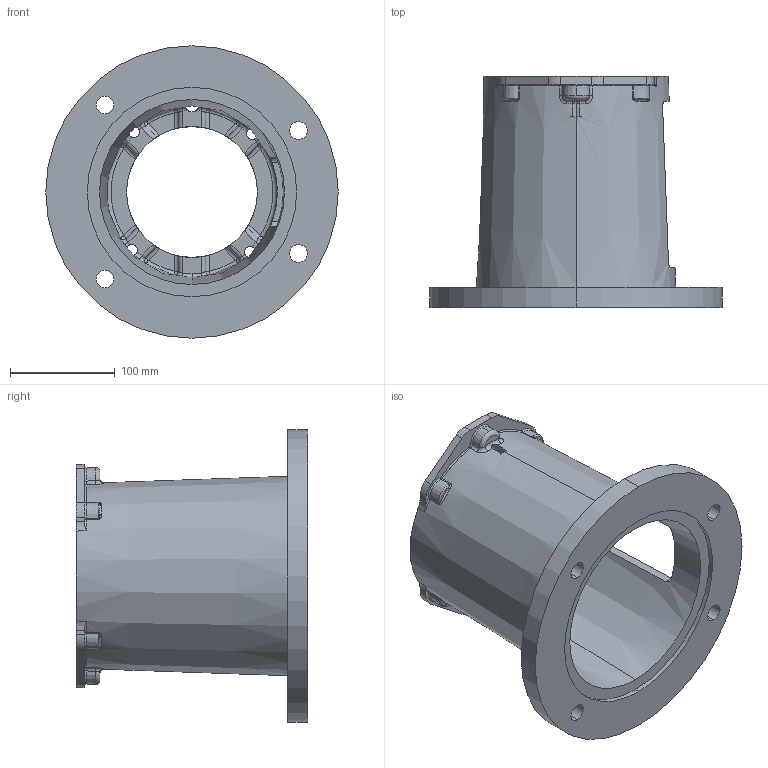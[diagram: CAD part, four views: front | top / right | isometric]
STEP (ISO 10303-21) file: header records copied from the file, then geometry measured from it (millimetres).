
FILE_DESCRIPTION (( 'STEP AP203' ), '1' );
FILE_NAME ('E78786125M.STEP', '2014-11-04T16:00:18', ( '' ), ( '' ), 'SwSTEP 2.0', 'SolidWorks 2014', '' );
FILE_SCHEMA (( 'CONFIG_CONTROL_DESIGN' ));
Length unit declared in the file: inch
Products named in the file (1): E78786125M
Bounding box: 279.4 x 220.73 x 279.4 mm (x, y, z)
Volume: 1538510.9 mm3; surface area: 339852.7 mm2
Topology: 1 solids, 1 shells, 322 faces, 865 edges, 525 vertices
Faces by surface type: cylinder 86, torus 76, bspline 64, plane 50, sphere 24, cone 22
Entity records: 13852 total; most frequent: CARTESIAN_POINT 6297, ORIENTED_EDGE 1702, DIRECTION 1487, EDGE_CURVE 851, AXIS2_PLACEMENT_3D 667, VERTEX_POINT 525, CIRCLE 408, EDGE_LOOP 342
